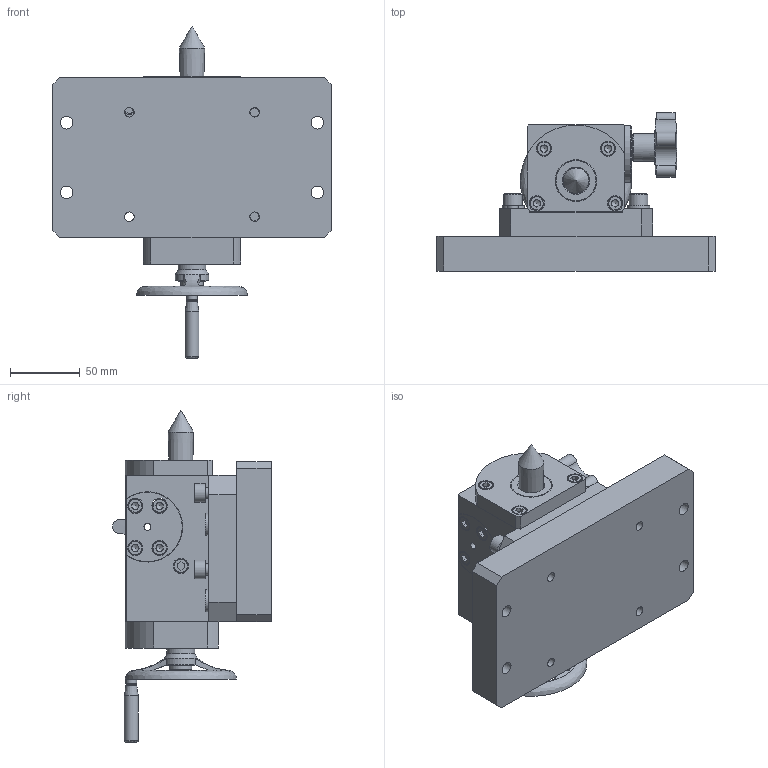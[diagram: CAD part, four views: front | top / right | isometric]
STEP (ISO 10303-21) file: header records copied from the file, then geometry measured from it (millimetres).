
FILE_DESCRIPTION (( 'STEP AP203' ), '1' );
FILE_NAME ('2520214.STEP', '2021-08-25T06:11:39', ( '' ), ( '' ), 'SwSTEP 2.0', 'SolidWorks 2021', '' );
FILE_SCHEMA (( 'CONFIG_CONTROL_DESIGN' ));
Length unit declared in the file: millimetre
Products named in the file (1): 2520214
Bounding box: 200 x 113.98 x 238.5 mm (x, y, z)
Surface area: 161786.4 mm2 (no closed solid volume)
Topology: 0 solids, 40 shells, 382 faces, 1082 edges, 706 vertices
Faces by surface type: plane 207, cylinder 107, cone 51, torus 12, bspline 5
Full cylindrical faces by diameter (mm): 4.134 x2, 5 x4, 6.5 x2, 6.8 x4, 7.8 x1, 8 x2, 8.5 x3, 9 x6, 10 x15, 11 x17, 13.3 x4, 14 x4, 16 x5, 20 x2, 30 x1
Entity records: 12479 total; most frequent: CARTESIAN_POINT 3221, DIRECTION 1927, ORIENTED_EDGE 1521, EDGE_CURVE 911, AXIS2_PLACEMENT_3D 694, VERTEX_POINT 672, EDGE_LOOP 606, LINE 539
